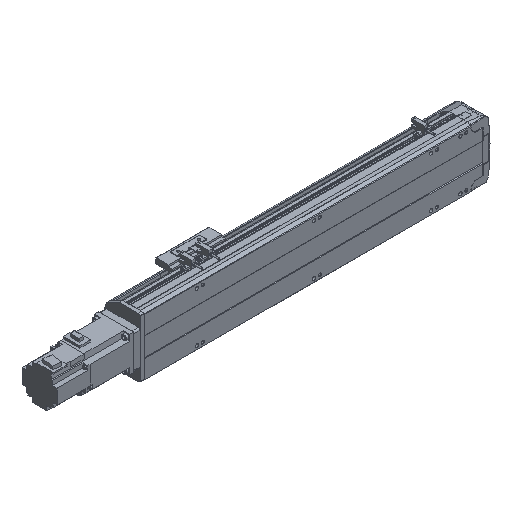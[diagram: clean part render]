
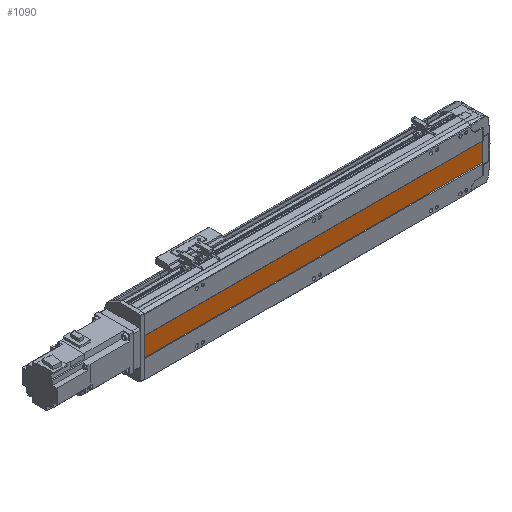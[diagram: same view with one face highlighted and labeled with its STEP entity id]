
A CAD part, isometric view. The second image highlights one B-rep face of the part: STEP entity #1090.
In plain terms, the highlighted planar face has unit normal (0, -1, 0).
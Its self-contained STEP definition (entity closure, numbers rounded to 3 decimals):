
#1090 = ADVANCED_FACE( '', ( #2702 ), #2703, .F. );
#2702 = FACE_OUTER_BOUND( '', #5013, .T. );
#2703 = PLANE( '', #5014 );
#5013 = EDGE_LOOP( '', ( #7866, #7867, #7868, #7869 ) );
#5014 = AXIS2_PLACEMENT_3D( '', #7870, #7871, #7872 );
#7866 = ORIENTED_EDGE( '', *, *, #13808, .F. );
#7867 = ORIENTED_EDGE( '', *, *, #13809, .T. );
#7868 = ORIENTED_EDGE( '', *, *, #13810, .T. );
#7869 = ORIENTED_EDGE( '', *, *, #13332, .F. );
#7870 = CARTESIAN_POINT( '', ( 597., 1., 16. ) );
#7871 = DIRECTION( '', ( 0., 1., 0. ) );
#7872 = DIRECTION( '', ( 0., 0., 1. ) );
#13332 = EDGE_CURVE( '', #15847, #15850, #15851, .T. );
#13808 = EDGE_CURVE( '', #16693, #15847, #16694, .T. );
#13809 = EDGE_CURVE( '', #16693, #16695, #16696, .T. );
#13810 = EDGE_CURVE( '', #16695, #15850, #16697, .T. );
#15847 = VERTEX_POINT( '', #19560 );
#15850 = VERTEX_POINT( '', #19564 );
#15851 = LINE( '', #19565, #19566 );
#16693 = VERTEX_POINT( '', #20717 );
#16694 = LINE( '', #20718, #20719 );
#16695 = VERTEX_POINT( '', #20720 );
#16696 = LINE( '', #20721, #20722 );
#16697 = LINE( '', #20723, #20724 );
#19560 = CARTESIAN_POINT( '', ( 583.5, 1., -16. ) );
#19564 = CARTESIAN_POINT( '', ( 6., 1., -16. ) );
#19565 = CARTESIAN_POINT( '', ( 597., 1., -16. ) );
#19566 = VECTOR( '', #24864, 1000. );
#20717 = CARTESIAN_POINT( '', ( 583.5, 1., 16. ) );
#20718 = CARTESIAN_POINT( '', ( 583.5, 1., 16. ) );
#20719 = VECTOR( '', #25450, 1000. );
#20720 = CARTESIAN_POINT( '', ( 6., 1., 16. ) );
#20721 = CARTESIAN_POINT( '', ( 597., 1., 16. ) );
#20722 = VECTOR( '', #25451, 1000. );
#20723 = CARTESIAN_POINT( '', ( 6., 1., 16. ) );
#20724 = VECTOR( '', #25452, 1000. );
#24864 = DIRECTION( '', ( -1., 0., 0. ) );
#25450 = DIRECTION( '', ( 0., 0., -1. ) );
#25451 = DIRECTION( '', ( -1., 0., 0. ) );
#25452 = DIRECTION( '', ( 0., 0., -1. ) );
